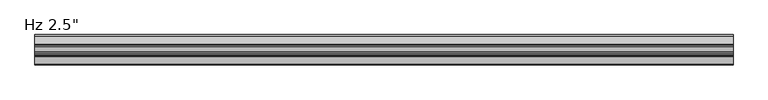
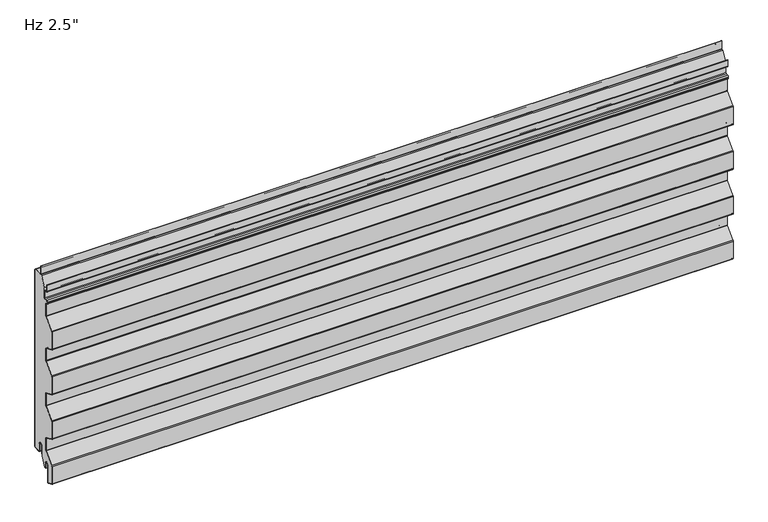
"""IFC4 building model written with IfcOpenShell, lengths in millimetres: plate geometry."""

from ifc_helpers import new_model, si_unit, point, frame, frame_2d, origin, place, context, project, spatial, polyline, circle_curve, trimmed, segment, composite_curve, outline, extrude, source, transform, mapped, element, save


def plate_cadf4e08(model_context):
    return source(origin(), model_context, "Body", "SweptSolid", [
        extrude(outline(composite_curve([segment(polyline([(-26.4011912, 19.05), (-26.4011912, -3.1976612), (-36.533822, -23.01875), (-38.6886912, -23.01875), (-38.6886912, -11.90625)]), True, "CONTINUOUS"), segment(trimmed(circle_curve(frame_2d((-43.6574412, -11.90625)), 4.96875), [point((-38.6886912, -11.90625))], [point((-48.6261912, -11.90625))], True, "CARTESIAN"), True, "CONTINUOUS"), segment(polyline([(-48.6261912, -11.90625), (-48.6261912, -48.8194049)]), True, "CONTINUOUS"), segment(trimmed(circle_curve(frame_2d((-50.0074412, -48.8194049)), 1.38125), [point((-48.6261912, -48.8194049))], [point((-50.5666208, -50.0824052))], False, "CARTESIAN"), True, "CONTINUOUS"), segment(polyline([(-50.5666208, -50.0824052), (-61.6779296, -45.1629946)]), True, "CONTINUOUS"), segment(trimmed(circle_curve(frame_2d((-61.11875, -43.8999943)), 1.38125), [point((-61.6779296, -45.1629946))], [point((-62.5, -43.8999943))], False, "CARTESIAN"), True, "CONTINUOUS"), segment(polyline([(-62.5, -43.8999943), (-62.5, -5.0536946)]), True, "CONTINUOUS"), segment(trimmed(circle_curve(frame_2d((-60.4012, -5.0536946)), 2.0988), [point((-62.5, -5.0536946))], [point((-61.9092077, -3.5939431))], False, "CARTESIAN"), True, "CONTINUOUS"), segment(polyline([(-61.9092077, -3.5939431), (-41.7145567, 17.2682996)]), True, "CONTINUOUS"), segment(trimmed(circle_curve(frame_2d((-43.5737, 19.0679503)), 2.5875), [point((-41.7145567, 17.2682996))], [point((-40.9862, 19.0679503))], True, "CARTESIAN"), True, "CONTINUOUS"), segment(polyline([(-40.9862, 19.0679503), (-40.9862, 45.5917981)]), True, "CONTINUOUS"), segment(trimmed(circle_curve(frame_2d((-43.5737, 45.5917981)), 2.5875), [point((-40.9862, 45.5917981))], [point((-42.5261871, 47.9577806))], True, "CARTESIAN"), True, "CONTINUOUS"), segment(polyline([(-42.5261871, 47.9577806), (-61.6779296, 56.4370054)]), True, "CONTINUOUS"), segment(trimmed(circle_curve(frame_2d((-61.11875, 57.7000057)), 1.38125), [point((-61.6779296, 56.4370054))], [point((-62.5, 57.7000057))], False, "CARTESIAN"), True, "CONTINUOUS"), segment(polyline([(-62.5, 57.7000057), (-62.5, 96.8367131)]), True, "CONTINUOUS"), segment(trimmed(circle_curve(frame_2d((-61.11875, 96.8367131)), 1.38125), [point((-62.5, 96.8367131))], [point((-62.1111912, 97.7973962))], False, "CARTESIAN"), True, "CONTINUOUS"), segment(polyline([(-62.1111912, 97.7973962), (-41.7145567, 118.8682996)]), True, "CONTINUOUS"), segment(trimmed(circle_curve(frame_2d((-43.5737, 120.6679503)), 2.5875), [point((-41.7145567, 118.8682996))], [point((-40.9862, 120.6679503))], True, "CARTESIAN"), True, "CONTINUOUS"), segment(polyline([(-40.9862, 120.6679503), (-40.9862, 147.1917981)]), True, "CONTINUOUS"), segment(trimmed(circle_curve(frame_2d((-43.5737, 147.1917981)), 2.5875), [point((-40.9862, 147.1917981))], [point((-42.5261871, 149.5577806))], True, "CARTESIAN"), True, "CONTINUOUS"), segment(polyline([(-42.5261871, 149.5577806), (-61.6779296, 158.0370054)]), True, "CONTINUOUS"), segment(trimmed(circle_curve(frame_2d((-61.11875, 159.3000057)), 1.38125), [point((-61.6779296, 158.0370054))], [point((-62.5, 159.3000057))], False, "CARTESIAN"), True, "CONTINUOUS"), segment(polyline([(-62.5, 159.3000057), (-62.5, 198.4367131)]), True, "CONTINUOUS"), segment(trimmed(circle_curve(frame_2d((-61.11875, 198.4367131)), 1.38125), [point((-62.5, 198.4367131))], [point((-62.1111912, 199.3973962))], False, "CARTESIAN"), True, "CONTINUOUS"), segment(polyline([(-62.1111912, 199.3973962), (-41.7145567, 220.4682996)]), True, "CONTINUOUS"), segment(trimmed(circle_curve(frame_2d((-43.5737, 222.2679503)), 2.5875), [point((-41.7145567, 220.4682996))], [point((-40.9862, 222.2679503))], True, "CARTESIAN"), True, "CONTINUOUS"), segment(polyline([(-40.9862, 222.2679503), (-40.9862, 248.7917981)]), True, "CONTINUOUS"), segment(trimmed(circle_curve(frame_2d((-43.5737, 248.7917981)), 2.5875), [point((-40.9862, 248.7917981))], [point((-42.5261871, 251.1577806))], True, "CARTESIAN"), True, "CONTINUOUS"), segment(polyline([(-42.5261871, 251.1577806), (-61.6779296, 259.6370054)]), True, "CONTINUOUS"), segment(trimmed(circle_curve(frame_2d((-61.11875, 260.9000057)), 1.38125), [point((-61.6779296, 259.6370054))], [point((-62.5, 260.9000057))], False, "CARTESIAN"), True, "CONTINUOUS"), segment(polyline([(-62.5, 260.9000057), (-62.5, 300.0367131)]), True, "CONTINUOUS"), segment(trimmed(circle_curve(frame_2d((-61.11875, 300.0367131)), 1.38125), [point((-62.5, 300.0367131))], [point((-62.1111912, 300.9973962))], False, "CARTESIAN"), True, "CONTINUOUS"), segment(polyline([(-62.1111912, 300.9973962), (-41.7145567, 322.0682996)]), True, "CONTINUOUS"), segment(trimmed(circle_curve(frame_2d((-43.5737, 323.8679503)), 2.5875), [point((-41.7145567, 322.0682996))], [point((-40.9862, 323.8679503))], True, "CARTESIAN"), True, "CONTINUOUS"), segment(polyline([(-40.9862, 323.8679503), (-40.9862, 350.3917981)]), True, "CONTINUOUS"), segment(trimmed(circle_curve(frame_2d((-43.5737, 350.3917981)), 2.5875), [point((-40.9862, 350.3917981))], [point((-42.5261871, 352.7577806))], True, "CARTESIAN"), True, "CONTINUOUS"), segment(polyline([(-42.5261871, 352.7577806), (-44.2166208, 353.5062016)]), True, "CONTINUOUS"), segment(trimmed(circle_curve(frame_2d((-43.6574412, 354.7692019)), 1.38125), [point((-44.2166208, 353.5062016))], [point((-45.0386912, 354.7692019))], False, "CARTESIAN"), True, "CONTINUOUS"), segment(polyline([(-45.0386912, 354.7692019), (-45.0386912, 357.0967085)]), True, "CONTINUOUS"), segment(trimmed(circle_curve(frame_2d((-43.6574412, 357.0967085)), 1.38125), [point((-45.0386912, 357.0967085))], [point((-43.7297302, 358.4760655))], False, "CARTESIAN"), True, "CONTINUOUS"), segment(polyline([(-43.7297302, 358.4760655), (-37.9657719, 358.7781418)]), True, "CONTINUOUS"), segment(trimmed(circle_curve(frame_2d((-38.1011912, 361.3620957)), 2.5875), [point((-37.9657719, 358.7781418))], [point((-35.5136912, 361.3620957))], True, "CARTESIAN"), True, "CONTINUOUS"), segment(polyline([(-35.5136912, 361.3620957), (-35.5136912, 383.7892934), (-24.8719682, 404.60625), (-2.3824412, 404.60625)]), True, "CONTINUOUS"), segment(trimmed(circle_curve(frame_2d((-2.3824412, 403.225)), 1.38125), [point((-2.3824412, 404.60625))], [point((-1.0011912, 403.225))], False, "CARTESIAN"), True, "CONTINUOUS"), segment(polyline([(-1.0011912, 403.225), (-1.0011912, 3.175)]), True, "CONTINUOUS"), segment(trimmed(circle_curve(frame_2d((-2.3824412, 3.175)), 1.38125), [point((-1.0011912, 3.175))], [point((-2.3824412, 1.79375))], False, "CARTESIAN"), True, "CONTINUOUS"), segment(polyline([(-2.3824412, 1.79375), (-15.0824412, 1.79375)]), True, "CONTINUOUS"), segment(trimmed(circle_curve(frame_2d((-15.0824412, 3.175)), 1.38125), [point((-15.0824412, 1.79375))], [point((-16.4636912, 3.175))], False, "CARTESIAN"), True, "CONTINUOUS"), segment(polyline([(-16.4636912, 3.175), (-16.4636912, 19.05)]), True, "CONTINUOUS"), segment(trimmed(circle_curve(frame_2d((-21.4324412, 19.05)), 4.96875), [point((-16.4636912, 19.05))], [point((-26.4011912, 19.05))], True, "CARTESIAN"), True, "CONTINUOUS")], self_intersect=False)), frame((-730.0, 0.0, 0.0), z_axis=(1.0, 0.0, 0.0), x_axis=(0.0, 1.0, 0.0)), (0.0, 0.0, 1.0), 1460.0),
        extrude(outline(composite_curve([segment(polyline([(-25.4, 0.79375), (-26.4, 0.79375), (-26.4, 19.05)]), True, "CONTINUOUS"), segment(trimmed(circle_curve(frame_2d((-21.43125, 19.05)), 4.96875), [point((-26.4, 19.05))], [point((-16.4625, 19.05))], False, "CARTESIAN"), True, "CONTINUOUS"), segment(polyline([(-16.4625, 19.05), (-16.4625, 3.175)]), True, "CONTINUOUS"), segment(trimmed(circle_curve(frame_2d((-15.08125, 3.175)), 1.38125), [point((-16.4625, 3.175))], [point((-15.08125, 1.79375))], True, "CARTESIAN"), True, "CONTINUOUS"), segment(polyline([(-15.08125, 1.79375), (-2.38125, 1.79375)]), True, "CONTINUOUS"), segment(trimmed(circle_curve(frame_2d((-2.38125, 3.175)), 1.38125), [point((-2.38125, 1.79375))], [point((-1.0, 3.175))], True, "CARTESIAN"), True, "CONTINUOUS"), segment(polyline([(-1.0, 3.175), (-1.0, 403.225)]), True, "CONTINUOUS"), segment(trimmed(circle_curve(frame_2d((-2.38125, 403.225)), 1.38125), [point((-1.0, 403.225))], [point((-2.38125, 404.60625))], True, "CARTESIAN"), True, "CONTINUOUS"), segment(polyline([(-2.38125, 404.60625), (-19.446875, 404.60625)]), True, "CONTINUOUS"), segment(trimmed(circle_curve(frame_2d((-19.446875, 407.19375)), 2.5875), [point((-19.446875, 404.60625))], [point((-22.034375, 407.19375))], False, "CARTESIAN"), True, "CONTINUOUS"), segment(polyline([(-22.034375, 407.19375), (-22.034375, 424.65625), (-21.034375, 424.65625), (-21.034375, 407.19375)]), True, "CONTINUOUS"), segment(trimmed(circle_curve(frame_2d((-19.446875, 407.19375)), 1.5875), [point((-21.034375, 407.19375))], [point((-19.446875, 405.60625))], True, "CARTESIAN"), True, "CONTINUOUS"), segment(polyline([(-19.446875, 405.60625), (-2.38125, 405.60625)]), True, "CONTINUOUS"), segment(trimmed(circle_curve(frame_2d((-2.38125, 403.225)), 2.38125), [point((-2.38125, 405.60625))], [point((0.0, 403.225))], False, "CARTESIAN"), True, "CONTINUOUS"), segment(polyline([(0.0, 403.225), (0.0, 3.175)]), True, "CONTINUOUS"), segment(trimmed(circle_curve(frame_2d((-2.38125, 3.175)), 2.38125), [point((0.0, 3.175))], [point((-2.38125, 0.79375))], False, "CARTESIAN"), True, "CONTINUOUS"), segment(polyline([(-2.38125, 0.79375), (-15.08125, 0.79375)]), True, "CONTINUOUS"), segment(trimmed(circle_curve(frame_2d((-15.08125, 3.175)), 2.38125), [point((-15.08125, 0.79375))], [point((-17.4625, 3.175))], False, "CARTESIAN"), True, "CONTINUOUS"), segment(polyline([(-17.4625, 3.175), (-17.4625, 19.05)]), True, "CONTINUOUS"), segment(trimmed(circle_curve(frame_2d((-21.43125, 19.05)), 3.96875), [point((-17.4625, 19.05))], [point((-25.4, 19.05))], True, "CARTESIAN"), True, "CONTINUOUS"), segment(polyline([(-25.4, 19.05), (-25.4, 0.79375)]), True, "CONTINUOUS")], self_intersect=False)), frame((-730.0, 0.0, 0.0), z_axis=(1.0, 0.0, 0.0), x_axis=(0.0, 1.0, 0.0)), (0.0, 0.0, 1.0), 1460.0),
        extrude(outline(composite_curve([segment(polyline([(-47.6261912, -11.90625), (-47.6261912, -48.8194049)]), True, "CONTINUOUS"), segment(trimmed(circle_curve(frame_2d((-50.0074412, -48.8194049)), 2.38125), [point((-47.6261912, -48.8194049))], [point((-50.9714567, -50.9967946))], False, "CARTESIAN"), True, "CONTINUOUS"), segment(polyline([(-50.9714567, -50.9967946), (-62.0827655, -46.0773839)]), True, "CONTINUOUS"), segment(trimmed(circle_curve(frame_2d((-61.11875, -43.8999943)), 2.38125), [point((-62.0827655, -46.0773839))], [point((-63.5, -43.8999943))], False, "CARTESIAN"), True, "CONTINUOUS"), segment(polyline([(-63.5, -43.8999943), (-63.5, -5.0536946)]), True, "CONTINUOUS"), segment(trimmed(circle_curve(frame_2d((-60.4012, -5.0536946)), 3.0988), [point((-63.5, -5.0536946))], [point((-62.6277172, -2.8984259))], False, "CARTESIAN"), True, "CONTINUOUS"), segment(polyline([(-62.6277172, -2.8984259), (-42.4330662, 17.9638168)]), True, "CONTINUOUS"), segment(trimmed(circle_curve(frame_2d((-43.5737, 19.0679503)), 1.5875), [point((-42.4330662, 17.9638168))], [point((-41.9862, 19.0679503))], True, "CARTESIAN"), True, "CONTINUOUS"), segment(polyline([(-41.9862, 19.0679503), (-41.9862, 45.5917981)]), True, "CONTINUOUS"), segment(trimmed(circle_curve(frame_2d((-43.5737, 45.5917981)), 1.5875), [point((-41.9862, 45.5917981))], [point((-42.931023, 47.0433912))], True, "CARTESIAN"), True, "CONTINUOUS"), segment(polyline([(-42.931023, 47.0433912), (-62.0827655, 55.5226161)]), True, "CONTINUOUS"), segment(trimmed(circle_curve(frame_2d((-61.11875, 57.7000057)), 2.38125), [point((-62.0827655, 55.5226161))], [point((-63.5, 57.7000057))], False, "CARTESIAN"), True, "CONTINUOUS"), segment(polyline([(-63.5, 57.7000057), (-63.5, 96.8367131)]), True, "CONTINUOUS"), segment(trimmed(circle_curve(frame_2d((-61.11875, 96.8367131)), 2.38125), [point((-63.5, 96.8367131))], [point((-62.8297007, 98.4929134))], False, "CARTESIAN"), True, "CONTINUOUS"), segment(polyline([(-62.8297007, 98.4929134), (-42.4330662, 119.5638168)]), True, "CONTINUOUS"), segment(trimmed(circle_curve(frame_2d((-43.5737, 120.6679503)), 1.5875), [point((-42.4330662, 119.5638168))], [point((-41.9862, 120.6679503))], True, "CARTESIAN"), True, "CONTINUOUS"), segment(polyline([(-41.9862, 120.6679503), (-41.9862, 147.1917981)]), True, "CONTINUOUS"), segment(trimmed(circle_curve(frame_2d((-43.5737, 147.1917981)), 1.5875), [point((-41.9862, 147.1917981))], [point((-42.931023, 148.6433912))], True, "CARTESIAN"), True, "CONTINUOUS"), segment(polyline([(-42.931023, 148.6433912), (-62.0827655, 157.1226161)]), True, "CONTINUOUS"), segment(trimmed(circle_curve(frame_2d((-61.11875, 159.3000057)), 2.38125), [point((-62.0827655, 157.1226161))], [point((-63.5, 159.3000057))], False, "CARTESIAN"), True, "CONTINUOUS"), segment(polyline([(-63.5, 159.3000057), (-63.5, 198.4367131)]), True, "CONTINUOUS"), segment(trimmed(circle_curve(frame_2d((-61.11875, 198.4367131)), 2.38125), [point((-63.5, 198.4367131))], [point((-62.8297007, 200.0929134))], False, "CARTESIAN"), True, "CONTINUOUS"), segment(polyline([(-62.8297007, 200.0929134), (-42.4330662, 221.1638168)]), True, "CONTINUOUS"), segment(trimmed(circle_curve(frame_2d((-43.5737, 222.2679503)), 1.5875), [point((-42.4330662, 221.1638168))], [point((-41.9862, 222.2679503))], True, "CARTESIAN"), True, "CONTINUOUS"), segment(polyline([(-41.9862, 222.2679503), (-41.9862, 248.7917981)]), True, "CONTINUOUS"), segment(trimmed(circle_curve(frame_2d((-43.5737, 248.7917981)), 1.5875), [point((-41.9862, 248.7917981))], [point((-42.931023, 250.2433912))], True, "CARTESIAN"), True, "CONTINUOUS"), segment(polyline([(-42.931023, 250.2433912), (-62.0827655, 258.7226161)]), True, "CONTINUOUS"), segment(trimmed(circle_curve(frame_2d((-61.11875, 260.9000057)), 2.38125), [point((-62.0827655, 258.7226161))], [point((-63.5, 260.9000057))], False, "CARTESIAN"), True, "CONTINUOUS"), segment(polyline([(-63.5, 260.9000057), (-63.5, 300.0367131)]), True, "CONTINUOUS"), segment(trimmed(circle_curve(frame_2d((-61.11875, 300.0367131)), 2.38125), [point((-63.5, 300.0367131))], [point((-62.8297007, 301.6929134))], False, "CARTESIAN"), True, "CONTINUOUS"), segment(polyline([(-62.8297007, 301.6929134), (-42.4330662, 322.7638168)]), True, "CONTINUOUS"), segment(trimmed(circle_curve(frame_2d((-43.5737, 323.8679503)), 1.5875), [point((-42.4330662, 322.7638168))], [point((-41.9862, 323.8679503))], True, "CARTESIAN"), True, "CONTINUOUS"), segment(polyline([(-41.9862, 323.8679503), (-41.9862, 350.3917981)]), True, "CONTINUOUS"), segment(trimmed(circle_curve(frame_2d((-43.5737, 350.3917981)), 1.5875), [point((-41.9862, 350.3917981))], [point((-42.931023, 351.8433912))], True, "CARTESIAN"), True, "CONTINUOUS"), segment(polyline([(-42.931023, 351.8433912), (-44.6214567, 352.5918123)]), True, "CONTINUOUS"), segment(trimmed(circle_curve(frame_2d((-43.6574412, 354.7692019)), 2.38125), [point((-44.6214567, 352.5918123))], [point((-46.0386912, 354.7692019))], False, "CARTESIAN"), True, "CONTINUOUS"), segment(polyline([(-46.0386912, 354.7692019), (-46.0386912, 357.0967085)]), True, "CONTINUOUS"), segment(trimmed(circle_curve(frame_2d((-43.6574412, 357.0967085)), 2.38125), [point((-46.0386912, 357.0967085))], [point((-43.7820662, 359.4746951))], False, "CARTESIAN"), True, "CONTINUOUS"), segment(polyline([(-43.7820662, 359.4746951), (-38.0181078, 359.7767713)]), True, "CONTINUOUS"), segment(trimmed(circle_curve(frame_2d((-38.1011912, 361.3620957)), 1.5875), [point((-38.0181078, 359.7767713))], [point((-36.5136912, 361.3620957))], True, "CARTESIAN"), True, "CONTINUOUS"), segment(polyline([(-36.5136912, 361.3620957), (-36.5136912, 376.2375)]), True, "CONTINUOUS"), segment(trimmed(circle_curve(frame_2d((-38.1011912, 376.2375)), 1.5875), [point((-36.5136912, 376.2375))], [point((-38.1011912, 377.825))], True, "CARTESIAN"), True, "CONTINUOUS"), segment(polyline([(-38.1011912, 377.825), (-41.6730662, 377.825)]), True, "CONTINUOUS"), segment(trimmed(circle_curve(frame_2d((-41.6730662, 380.20625)), 2.38125), [point((-41.6730662, 377.825))], [point((-44.0543162, 380.20625))], False, "CARTESIAN"), True, "CONTINUOUS"), segment(polyline([(-44.0543162, 380.20625), (-44.0543162, 394.49375), (-43.0543162, 394.49375), (-43.0543162, 380.20625)]), True, "CONTINUOUS"), segment(trimmed(circle_curve(frame_2d((-41.6730662, 380.20625)), 1.38125), [point((-43.0543162, 380.20625))], [point((-41.6730662, 378.825))], True, "CARTESIAN"), True, "CONTINUOUS"), segment(polyline([(-41.6730662, 378.825), (-38.1011912, 378.825)]), True, "CONTINUOUS"), segment(trimmed(circle_curve(frame_2d((-38.1011912, 376.2375)), 2.5875), [point((-38.1011912, 378.825))], [point((-35.5136912, 376.2375))], False, "CARTESIAN"), True, "CONTINUOUS"), segment(polyline([(-35.5136912, 376.2375), (-35.5136912, 361.3620957)]), True, "CONTINUOUS"), segment(trimmed(circle_curve(frame_2d((-38.1011912, 361.3620957)), 2.5875), [point((-35.5136912, 361.3620957))], [point((-37.9657719, 358.7781418))], False, "CARTESIAN"), True, "CONTINUOUS"), segment(polyline([(-37.9657719, 358.7781418), (-43.7297302, 358.4760655)]), True, "CONTINUOUS"), segment(trimmed(circle_curve(frame_2d((-43.6574412, 357.0967085)), 1.38125), [point((-43.7297302, 358.4760655))], [point((-45.0386912, 357.0967085))], True, "CARTESIAN"), True, "CONTINUOUS"), segment(polyline([(-45.0386912, 357.0967085), (-45.0386912, 354.7692019)]), True, "CONTINUOUS"), segment(trimmed(circle_curve(frame_2d((-43.6574412, 354.7692019)), 1.38125), [point((-45.0386912, 354.7692019))], [point((-44.2166208, 353.5062016))], True, "CARTESIAN"), True, "CONTINUOUS"), segment(polyline([(-44.2166208, 353.5062016), (-42.5261871, 352.7577806)]), True, "CONTINUOUS"), segment(trimmed(circle_curve(frame_2d((-43.5737, 350.3917981)), 2.5875), [point((-42.5261871, 352.7577806))], [point((-40.9862, 350.3917981))], False, "CARTESIAN"), True, "CONTINUOUS"), segment(polyline([(-40.9862, 350.3917981), (-40.9862, 323.8679503)]), True, "CONTINUOUS"), segment(trimmed(circle_curve(frame_2d((-43.5737, 323.8679503)), 2.5875), [point((-40.9862, 323.8679503))], [point((-41.7145567, 322.0682996))], False, "CARTESIAN"), True, "CONTINUOUS"), segment(polyline([(-41.7145567, 322.0682996), (-62.1111912, 300.9973962)]), True, "CONTINUOUS"), segment(trimmed(circle_curve(frame_2d((-61.11875, 300.0367131)), 1.38125), [point((-62.1111912, 300.9973962))], [point((-62.5, 300.0367131))], True, "CARTESIAN"), True, "CONTINUOUS"), segment(polyline([(-62.5, 300.0367131), (-62.5, 260.9000057)]), True, "CONTINUOUS"), segment(trimmed(circle_curve(frame_2d((-61.11875, 260.9000057)), 1.38125), [point((-62.5, 260.9000057))], [point((-61.6779296, 259.6370054))], True, "CARTESIAN"), True, "CONTINUOUS"), segment(polyline([(-61.6779296, 259.6370054), (-42.5261871, 251.1577806)]), True, "CONTINUOUS"), segment(trimmed(circle_curve(frame_2d((-43.5737, 248.7917981)), 2.5875), [point((-42.5261871, 251.1577806))], [point((-40.9862, 248.7917981))], False, "CARTESIAN"), True, "CONTINUOUS"), segment(polyline([(-40.9862, 248.7917981), (-40.9862, 222.2679503)]), True, "CONTINUOUS"), segment(trimmed(circle_curve(frame_2d((-43.5737, 222.2679503)), 2.5875), [point((-40.9862, 222.2679503))], [point((-41.7145567, 220.4682996))], False, "CARTESIAN"), True, "CONTINUOUS"), segment(polyline([(-41.7145567, 220.4682996), (-62.1111912, 199.3973962)]), True, "CONTINUOUS"), segment(trimmed(circle_curve(frame_2d((-61.11875, 198.4367131)), 1.38125), [point((-62.1111912, 199.3973962))], [point((-62.5, 198.4367131))], True, "CARTESIAN"), True, "CONTINUOUS"), segment(polyline([(-62.5, 198.4367131), (-62.5, 159.3000057)]), True, "CONTINUOUS"), segment(trimmed(circle_curve(frame_2d((-61.11875, 159.3000057)), 1.38125), [point((-62.5, 159.3000057))], [point((-61.6779296, 158.0370054))], True, "CARTESIAN"), True, "CONTINUOUS"), segment(polyline([(-61.6779296, 158.0370054), (-42.5261871, 149.5577806)]), True, "CONTINUOUS"), segment(trimmed(circle_curve(frame_2d((-43.5737, 147.1917981)), 2.5875), [point((-42.5261871, 149.5577806))], [point((-40.9862, 147.1917981))], False, "CARTESIAN"), True, "CONTINUOUS"), segment(polyline([(-40.9862, 147.1917981), (-40.9862, 120.6679503)]), True, "CONTINUOUS"), segment(trimmed(circle_curve(frame_2d((-43.5737, 120.6679503)), 2.5875), [point((-40.9862, 120.6679503))], [point((-41.7145567, 118.8682996))], False, "CARTESIAN"), True, "CONTINUOUS"), segment(polyline([(-41.7145567, 118.8682996), (-62.1111912, 97.7973962)]), True, "CONTINUOUS"), segment(trimmed(circle_curve(frame_2d((-61.11875, 96.8367131)), 1.38125), [point((-62.1111912, 97.7973962))], [point((-62.5, 96.8367131))], True, "CARTESIAN"), True, "CONTINUOUS"), segment(polyline([(-62.5, 96.8367131), (-62.5, 57.7000057)]), True, "CONTINUOUS"), segment(trimmed(circle_curve(frame_2d((-61.11875, 57.7000057)), 1.38125), [point((-62.5, 57.7000057))], [point((-61.6779296, 56.4370054))], True, "CARTESIAN"), True, "CONTINUOUS"), segment(polyline([(-61.6779296, 56.4370054), (-42.5261871, 47.9577806)]), True, "CONTINUOUS"), segment(trimmed(circle_curve(frame_2d((-43.5737, 45.5917981)), 2.5875), [point((-42.5261871, 47.9577806))], [point((-40.9862, 45.5917981))], False, "CARTESIAN"), True, "CONTINUOUS"), segment(polyline([(-40.9862, 45.5917981), (-40.9862, 19.0679503)]), True, "CONTINUOUS"), segment(trimmed(circle_curve(frame_2d((-43.5737, 19.0679503)), 2.5875), [point((-40.9862, 19.0679503))], [point((-41.7145567, 17.2682996))], False, "CARTESIAN"), True, "CONTINUOUS"), segment(polyline([(-41.7145567, 17.2682996), (-61.9092077, -3.5939431)]), True, "CONTINUOUS"), segment(trimmed(circle_curve(frame_2d((-60.4012, -5.0536946)), 2.0988), [point((-61.9092077, -3.5939431))], [point((-62.5, -5.0536946))], True, "CARTESIAN"), True, "CONTINUOUS"), segment(polyline([(-62.5, -5.0536946), (-62.5, -43.8999943)]), True, "CONTINUOUS"), segment(trimmed(circle_curve(frame_2d((-61.11875, -43.8999943)), 1.38125), [point((-62.5, -43.8999943))], [point((-61.6779296, -45.1629946))], True, "CARTESIAN"), True, "CONTINUOUS"), segment(polyline([(-61.6779296, -45.1629946), (-50.5666208, -50.0824052)]), True, "CONTINUOUS"), segment(trimmed(circle_curve(frame_2d((-50.0074412, -48.8194049)), 1.38125), [point((-50.5666208, -50.0824052))], [point((-48.6261912, -48.8194049))], True, "CARTESIAN"), True, "CONTINUOUS"), segment(polyline([(-48.6261912, -48.8194049), (-48.6261912, -11.90625)]), True, "CONTINUOUS"), segment(trimmed(circle_curve(frame_2d((-43.6574412, -11.90625)), 4.96875), [point((-48.6261912, -11.90625))], [point((-38.6886912, -11.90625))], False, "CARTESIAN"), True, "CONTINUOUS"), segment(polyline([(-38.6886912, -11.90625), (-38.6886912, -23.01875), (-39.6886912, -23.01875), (-39.6886912, -11.90625)]), True, "CONTINUOUS"), segment(trimmed(circle_curve(frame_2d((-43.6574412, -11.90625)), 3.96875), [point((-39.6886912, -11.90625))], [point((-47.6261912, -11.90625))], True, "CARTESIAN"), True, "CONTINUOUS")], self_intersect=False)), frame((-730.0, 0.0, 0.0), z_axis=(1.0, 0.0, 0.0), x_axis=(0.0, 1.0, 0.0)), (0.0, 0.0, 1.0), 1460.0),
    ])


if __name__ == "__main__":
    model = new_model("IFC4")
    model_context = context("Model", 3, world=origin())
    ifc_project = project(units=[si_unit("LENGTHUNIT", "METRE", prefix="MILLI")], contexts=[model_context])
    site = spatial("IfcSite", under=ifc_project)
    building = spatial("IfcBuilding", under=site)
    placement = place(None, origin())
    plate_shape = plate_cadf4e08(model_context)
    element("IfcPlate", 1, ObjectType="KIP-16-DWR-R19-CP-Hz-S : Hz 2.5\"", at=placement, inside=building, context=model_context, shape_type="MappedRepresentation", body=[
        mapped(plate_shape, transform((0.0, 0.0, 0.0), x_axis=(1.0, 0.0, 0.0), y_axis=(0.0, 1.0, 0.0), z_axis=(0.0, 0.0, 1.0))),
    ])
    save(model, "model.ifc")
